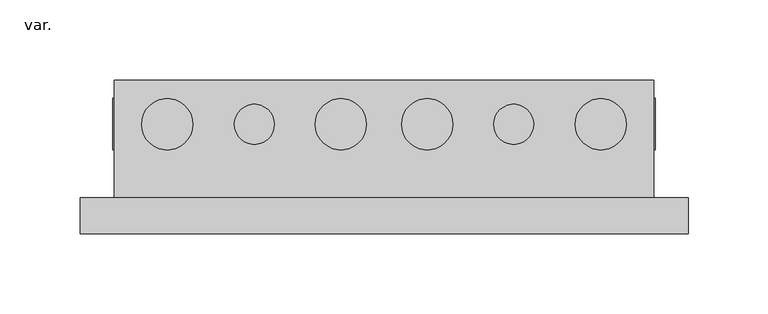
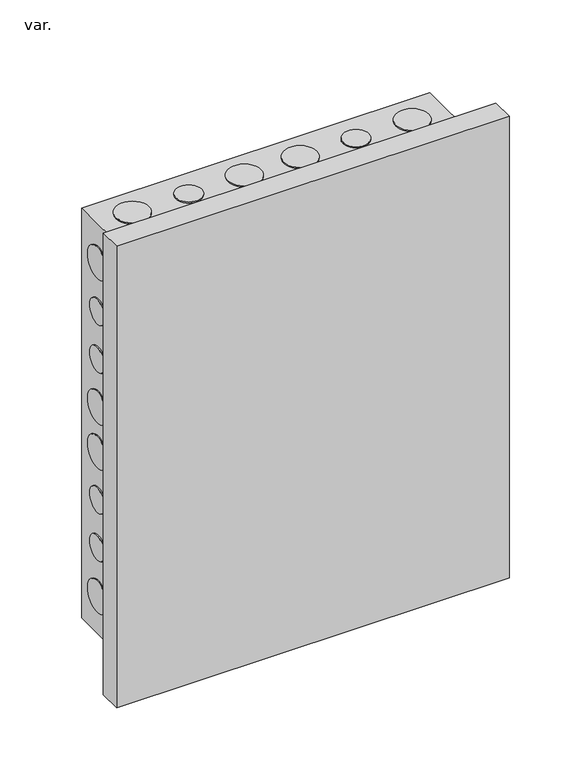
"""IFC4 building model written with IfcOpenShell, lengths in millimetres: pipe fitting geometry, AmancoWavin_ConexõesdoConduite_LinhaEletricaCorrugadoCuadroDistribucao36D : var.."""

from ifc_helpers import new_model, si_unit, point, frame, frame_2d, origin, place, context, project, spatial, polyline, circle_curve, trimmed, segment, composite_curve, outline, extrude, source, transform, mapped, element, save
from ifc_brep_helpers import plane_surface, cylinder_surface, revolved_surface, advanced_brep


def var_01f370bb(model_context):
    return source(origin(), model_context, "Body", "SolidModel", [
        extrude(outline(composite_curve([segment(trimmed(circle_curve(frame_2d((-135.5, 68.3)), 16.0), [point((-151.5, 68.3))], [point((-119.5, 68.3))], False, "CARTESIAN"), True, "CONTINUOUS"), segment(trimmed(circle_curve(frame_2d((-135.5, 68.3)), 16.0), [point((-119.5, 68.3))], [point((-151.5, 68.3))], False, "CARTESIAN"), True, "CONTINUOUS")], self_intersect=False)), frame((0.0, 0.0, -210.5204981), z_axis=(0.0, 0.0, 1.0), x_axis=(1.0, 0.0, 0.0)), (0.0, 0.0, 1.0), 421.5074674),
        extrude(outline(composite_curve([segment(trimmed(circle_curve(frame_2d((-81.0, 68.3)), 12.5), [point((-93.5, 68.3))], [point((-68.5, 68.3))], False, "CARTESIAN"), True, "CONTINUOUS"), segment(trimmed(circle_curve(frame_2d((-81.0, 68.3)), 12.5), [point((-68.5, 68.3))], [point((-93.5, 68.3))], False, "CARTESIAN"), True, "CONTINUOUS")], self_intersect=False)), frame((0.0, 0.0, -210.5204981), z_axis=(0.0, 0.0, 1.0), x_axis=(1.0, 0.0, 0.0)), (0.0, 0.0, 1.0), 421.5074674),
        extrude(outline(composite_curve([segment(trimmed(circle_curve(frame_2d((-27.0, 68.3)), 16.0), [point((-43.0, 68.3))], [point((-11.0, 68.3))], False, "CARTESIAN"), True, "CONTINUOUS"), segment(trimmed(circle_curve(frame_2d((-27.0, 68.3)), 16.0), [point((-11.0, 68.3))], [point((-43.0, 68.3))], False, "CARTESIAN"), True, "CONTINUOUS")], self_intersect=False)), frame((0.0, 0.0, -210.5204981), z_axis=(0.0, 0.0, 1.0), x_axis=(1.0, 0.0, 0.0)), (0.0, 0.0, 1.0), 421.5074674),
        extrude(outline(composite_curve([segment(trimmed(circle_curve(frame_2d((135.5, 68.3)), 16.0), [point((151.5, 68.3))], [point((119.5, 68.3))], False, "CARTESIAN"), True, "CONTINUOUS"), segment(trimmed(circle_curve(frame_2d((135.5, 68.3)), 16.0), [point((119.5, 68.3))], [point((151.5, 68.3))], False, "CARTESIAN"), True, "CONTINUOUS")], self_intersect=False)), frame((0.0, 0.0, -210.5204981), z_axis=(0.0, 0.0, 1.0), x_axis=(1.0, 0.0, 0.0)), (0.0, 0.0, 1.0), 421.5074674),
        extrude(outline(composite_curve([segment(trimmed(circle_curve(frame_2d((81.0, 68.3)), 12.5), [point((93.5, 68.3))], [point((68.5, 68.3))], False, "CARTESIAN"), True, "CONTINUOUS"), segment(trimmed(circle_curve(frame_2d((81.0, 68.3)), 12.5), [point((68.5, 68.3))], [point((93.5, 68.3))], False, "CARTESIAN"), True, "CONTINUOUS")], self_intersect=False)), frame((0.0, 0.0, -210.5204981), z_axis=(0.0, 0.0, 1.0), x_axis=(1.0, 0.0, 0.0)), (0.0, 0.0, 1.0), 421.5074674),
        extrude(outline(composite_curve([segment(trimmed(circle_curve(frame_2d((27.0, 68.3)), 16.0), [point((43.0, 68.3))], [point((11.0, 68.3))], False, "CARTESIAN"), True, "CONTINUOUS"), segment(trimmed(circle_curve(frame_2d((27.0, 68.3)), 16.0), [point((11.0, 68.3))], [point((43.0, 68.3))], False, "CARTESIAN"), True, "CONTINUOUS")], self_intersect=False)), frame((0.0, 0.0, -210.5204981), z_axis=(0.0, 0.0, 1.0), x_axis=(1.0, 0.0, 0.0)), (0.0, 0.0, 1.0), 421.5074674),
        advanced_brep(
        [(190.0, 22.5, 236.5), (190.0, 22.5, -236.5), (-190.0, 22.5, -236.5), (-190.0, 22.5, 236.5), (168.5, 22.5, -210.0), (168.5, 22.5, 210.0), (-168.5, 22.5, 210.0), (-168.5, 22.5, -210.0), (190.0, 0.0, 236.5), (190.0, 0.0, -236.5), (-190.0, 0.0, -236.5), (-190.0, 0.0, 236.5), (168.5, 96.0, 210.0), (168.5, 96.0, -210.0), (-168.5, 96.0, -210.0), (-168.5, 96.0, 210.0), (-132.5, 96.0, 167.5), (-157.5, 96.0, 167.5), (-89.0, 96.0, 185.5), (-121.0, 96.0, 185.5), (132.5, 96.0, 167.5), (157.5, 96.0, 167.5), (89.0, 96.0, 185.5), (121.0, 96.0, 185.5), (-132.5, 96.0, -167.5), (-157.5, 96.0, -167.5), (-89.0, 96.0, -185.5), (-121.0, 96.0, -185.5), (132.5, 96.0, -167.5), (157.5, 96.0, -167.5), (89.0, 96.0, -185.5), (121.0, 96.0, -185.5), (168.5, 52.5, 23.0), (168.5, 84.5, 23.0), (168.5, 56.0, 72.0), (168.5, 81.0, 72.0), (168.5, 52.5, 171.0), (168.5, 84.5, 171.0), (168.5, 56.0, 121.0), (168.5, 81.0, 121.0), (168.5, 52.5, -23.0), (168.5, 84.5, -23.0), (168.5, 56.0, -72.0), (168.5, 81.0, -72.0), (168.5, 52.5, -171.0), (168.5, 84.5, -171.0), (168.5, 56.0, -121.0), (168.5, 81.0, -121.0), (-168.5, 84.5, 23.0), (-168.5, 52.5, 23.0), (-168.5, 81.0, 72.0), (-168.5, 56.0, 72.0), (-168.5, 84.5, 171.0), (-168.5, 52.5, 171.0), (-168.5, 81.0, 121.0), (-168.5, 56.0, 121.0), (-168.5, 84.5, -23.0), (-168.5, 52.5, -23.0), (-168.5, 81.0, -72.0), (-168.5, 56.0, -72.0), (-168.5, 84.5, -171.0), (-168.5, 52.5, -171.0), (-168.5, 81.0, -121.0), (-168.5, 56.0, -121.0), (-157.5, 95.0, 167.5), (-132.5, 95.0, 167.5), (-121.0, 95.0, 185.5), (-89.0, 95.0, 185.5), (157.5, 95.0, 167.5), (132.5, 95.0, 167.5), (121.0, 95.0, 185.5), (89.0, 95.0, 185.5), (-157.5, 95.0, -167.5), (-132.5, 95.0, -167.5), (-121.0, 95.0, -185.5), (-89.0, 95.0, -185.5), (157.5, 95.0, -167.5), (132.5, 95.0, -167.5), (121.0, 95.0, -185.5), (89.0, 95.0, -185.5), (-169.5, 52.5, 23.0), (-169.5, 84.5, 23.0), (-169.5, 56.0, 72.0), (-169.5, 81.0, 72.0), (-169.5, 52.5, 171.0), (-169.5, 84.5, 171.0), (-169.5, 56.0, 121.0), (-169.5, 81.0, 121.0), (-169.5, 52.5, -23.0), (-169.5, 84.5, -23.0), (-169.5, 56.0, -72.0), (-169.5, 81.0, -72.0), (-169.5, 52.5, -171.0), (-169.5, 84.5, -171.0), (-169.5, 56.0, -121.0), (-169.5, 81.0, -121.0), (169.5, 52.5, 23.0), (169.5, 84.5, 23.0), (169.5, 56.0, 72.0), (169.5, 81.0, 72.0), (169.5, 52.5, 171.0), (169.5, 84.5, 171.0), (169.5, 56.0, 121.0), (169.5, 81.0, 121.0), (169.5, 52.5, -23.0), (169.5, 84.5, -23.0), (169.5, 56.0, -72.0), (169.5, 81.0, -72.0), (169.5, 52.5, -171.0), (169.5, 84.5, -171.0), (169.5, 56.0, -121.0), (169.5, 81.0, -121.0)],
        [
            (0, 1),
            (1, 2),
            (2, 3),
            (3, 0),
            (4, 5),
            (5, 6),
            (6, 7),
            (7, 4),
            (0, 8),
            (8, 9),
            (9, 1),
            (9, 10),
            (10, 2),
            (10, 11),
            (11, 3),
            (11, 8),
            (12, 13),
            (13, 14),
            (14, 15),
            (15, 12),
            (16, 17, circle_curve(frame((-145.0, 96.0, 167.5), z_axis=(0.0, -1.0, 0.0), x_axis=(1.0, 0.0, 0.0)), 12.5)),
            (17, 16, circle_curve(frame((-145.0, 96.0, 167.5), z_axis=(0.0, -1.0, 0.0), x_axis=(1.0, 0.0, 0.0)), 12.5)),
            (18, 19, circle_curve(frame((-105.0, 96.0, 185.5), z_axis=(0.0, -1.0, 0.0), x_axis=(1.0, 0.0, 0.0)), 16.0)),
            (19, 18, circle_curve(frame((-105.0, 96.0, 185.5), z_axis=(0.0, -1.0, 0.0), x_axis=(1.0, 0.0, 0.0)), 16.0)),
            (20, 21, circle_curve(frame((145.0, 96.0, 167.5), z_axis=(0.0, -1.0, 0.0), x_axis=(-1.0, 0.0, 0.0)), 12.5)),
            (21, 20, circle_curve(frame((145.0, 96.0, 167.5), z_axis=(0.0, -1.0, 0.0), x_axis=(-1.0, 0.0, 0.0)), 12.5)),
            (22, 23, circle_curve(frame((105.0, 96.0, 185.5), z_axis=(0.0, -1.0, 0.0), x_axis=(-1.0, 0.0, 0.0)), 16.0)),
            (23, 22, circle_curve(frame((105.0, 96.0, 185.5), z_axis=(0.0, -1.0, 0.0), x_axis=(-1.0, 0.0, 0.0)), 16.0)),
            (24, 25, circle_curve(frame((-145.0, 96.0, -167.5), z_axis=(0.0, -1.0, 0.0), x_axis=(1.0, 0.0, 0.0)), 12.5)),
            (25, 24, circle_curve(frame((-145.0, 96.0, -167.5), z_axis=(0.0, -1.0, 0.0), x_axis=(1.0, 0.0, 0.0)), 12.5)),
            (26, 27, circle_curve(frame((-105.0, 96.0, -185.5), z_axis=(0.0, -1.0, 0.0), x_axis=(1.0, 0.0, 0.0)), 16.0)),
            (27, 26, circle_curve(frame((-105.0, 96.0, -185.5), z_axis=(0.0, -1.0, 0.0), x_axis=(1.0, 0.0, 0.0)), 16.0)),
            (28, 29, circle_curve(frame((145.0, 96.0, -167.5), z_axis=(0.0, -1.0, 0.0), x_axis=(-1.0, 0.0, 0.0)), 12.5)),
            (29, 28, circle_curve(frame((145.0, 96.0, -167.5), z_axis=(0.0, -1.0, 0.0), x_axis=(-1.0, 0.0, 0.0)), 12.5)),
            (30, 31, circle_curve(frame((105.0, 96.0, -185.5), z_axis=(0.0, -1.0, 0.0), x_axis=(-1.0, 0.0, 0.0)), 16.0)),
            (31, 30, circle_curve(frame((105.0, 96.0, -185.5), z_axis=(0.0, -1.0, 0.0), x_axis=(-1.0, 0.0, 0.0)), 16.0)),
            (12, 5),
            (4, 13),
            (32, 33, circle_curve(frame((168.5, 68.5, 23.0), z_axis=(-1.0, 0.0, 0.0), x_axis=(0.0, 1.0, 0.0)), 16.0)),
            (33, 32, circle_curve(frame((168.5, 68.5, 23.0), z_axis=(-1.0, 0.0, 0.0), x_axis=(0.0, 1.0, 0.0)), 16.0)),
            (34, 35, circle_curve(frame((168.5, 68.5, 72.0), z_axis=(-1.0, 0.0, 0.0), x_axis=(0.0, 1.0, 0.0)), 12.5)),
            (35, 34, circle_curve(frame((168.5, 68.5, 72.0), z_axis=(-1.0, 0.0, 0.0), x_axis=(0.0, 1.0, 0.0)), 12.5)),
            (36, 37, circle_curve(frame((168.5, 68.5, 171.0), z_axis=(-1.0, 0.0, 0.0), x_axis=(0.0, 1.0, 0.0)), 16.0)),
            (37, 36, circle_curve(frame((168.5, 68.5, 171.0), z_axis=(-1.0, 0.0, 0.0), x_axis=(0.0, 1.0, 0.0)), 16.0)),
            (38, 39, circle_curve(frame((168.5, 68.5, 121.0), z_axis=(-1.0, 0.0, 0.0), x_axis=(0.0, 1.0, 0.0)), 12.5)),
            (39, 38, circle_curve(frame((168.5, 68.5, 121.0), z_axis=(-1.0, 0.0, 0.0), x_axis=(0.0, 1.0, 0.0)), 12.5)),
            (40, 41, circle_curve(frame((168.5, 68.5, -23.0), z_axis=(-1.0, 0.0, 0.0), x_axis=(0.0, 1.0, 0.0)), 16.0)),
            (41, 40, circle_curve(frame((168.5, 68.5, -23.0), z_axis=(-1.0, 0.0, 0.0), x_axis=(0.0, 1.0, 0.0)), 16.0)),
            (42, 43, circle_curve(frame((168.5, 68.5, -72.0), z_axis=(-1.0, 0.0, 0.0), x_axis=(0.0, 1.0, 0.0)), 12.5)),
            (43, 42, circle_curve(frame((168.5, 68.5, -72.0), z_axis=(-1.0, 0.0, 0.0), x_axis=(0.0, 1.0, 0.0)), 12.5)),
            (44, 45, circle_curve(frame((168.5, 68.5, -171.0), z_axis=(-1.0, 0.0, 0.0), x_axis=(0.0, 1.0, 0.0)), 16.0)),
            (45, 44, circle_curve(frame((168.5, 68.5, -171.0), z_axis=(-1.0, 0.0, 0.0), x_axis=(0.0, 1.0, 0.0)), 16.0)),
            (46, 47, circle_curve(frame((168.5, 68.5, -121.0), z_axis=(-1.0, 0.0, 0.0), x_axis=(0.0, 1.0, 0.0)), 12.5)),
            (47, 46, circle_curve(frame((168.5, 68.5, -121.0), z_axis=(-1.0, 0.0, 0.0), x_axis=(0.0, 1.0, 0.0)), 12.5)),
            (7, 14),
            (6, 15),
            (48, 49, circle_curve(frame((-168.5, 68.5, 23.0), z_axis=(1.0, 0.0, 0.0), x_axis=(0.0, 1.0, 0.0)), 16.0)),
            (49, 48, circle_curve(frame((-168.5, 68.5, 23.0), z_axis=(1.0, 0.0, 0.0), x_axis=(0.0, 1.0, 0.0)), 16.0)),
            (50, 51, circle_curve(frame((-168.5, 68.5, 72.0), z_axis=(1.0, 0.0, 0.0), x_axis=(0.0, 1.0, 0.0)), 12.5)),
            (51, 50, circle_curve(frame((-168.5, 68.5, 72.0), z_axis=(1.0, 0.0, 0.0), x_axis=(0.0, 1.0, 0.0)), 12.5)),
            (52, 53, circle_curve(frame((-168.5, 68.5, 171.0), z_axis=(1.0, 0.0, 0.0), x_axis=(0.0, 1.0, 0.0)), 16.0)),
            (53, 52, circle_curve(frame((-168.5, 68.5, 171.0), z_axis=(1.0, 0.0, 0.0), x_axis=(0.0, 1.0, 0.0)), 16.0)),
            (54, 55, circle_curve(frame((-168.5, 68.5, 121.0), z_axis=(1.0, 0.0, 0.0), x_axis=(0.0, 1.0, 0.0)), 12.5)),
            (55, 54, circle_curve(frame((-168.5, 68.5, 121.0), z_axis=(1.0, 0.0, 0.0), x_axis=(0.0, 1.0, 0.0)), 12.5)),
            (56, 57, circle_curve(frame((-168.5, 68.5, -23.0), z_axis=(1.0, 0.0, 0.0), x_axis=(0.0, 1.0, 0.0)), 16.0)),
            (57, 56, circle_curve(frame((-168.5, 68.5, -23.0), z_axis=(1.0, 0.0, 0.0), x_axis=(0.0, 1.0, 0.0)), 16.0)),
            (58, 59, circle_curve(frame((-168.5, 68.5, -72.0), z_axis=(1.0, 0.0, 0.0), x_axis=(0.0, 1.0, 0.0)), 12.5)),
            (59, 58, circle_curve(frame((-168.5, 68.5, -72.0), z_axis=(1.0, 0.0, 0.0), x_axis=(0.0, 1.0, 0.0)), 12.5)),
            (60, 61, circle_curve(frame((-168.5, 68.5, -171.0), z_axis=(1.0, 0.0, 0.0), x_axis=(0.0, 1.0, 0.0)), 16.0)),
            (61, 60, circle_curve(frame((-168.5, 68.5, -171.0), z_axis=(1.0, 0.0, 0.0), x_axis=(0.0, 1.0, 0.0)), 16.0)),
            (62, 63, circle_curve(frame((-168.5, 68.5, -121.0), z_axis=(1.0, 0.0, 0.0), x_axis=(0.0, 1.0, 0.0)), 12.5)),
            (63, 62, circle_curve(frame((-168.5, 68.5, -121.0), z_axis=(1.0, 0.0, 0.0), x_axis=(0.0, 1.0, 0.0)), 12.5)),
            (64, 65, circle_curve(frame((-145.0, 95.0, 167.5), z_axis=(0.0, 1.0, 0.0), x_axis=(1.0, 0.0, 0.0)), 12.5)),
            (65, 64, circle_curve(frame((-145.0, 95.0, 167.5), z_axis=(0.0, 1.0, 0.0), x_axis=(1.0, 0.0, 0.0)), 12.5)),
            (66, 67, circle_curve(frame((-105.0, 95.0, 185.5), z_axis=(0.0, 1.0, 0.0), x_axis=(1.0, 0.0, 0.0)), 16.0)),
            (67, 66, circle_curve(frame((-105.0, 95.0, 185.5), z_axis=(0.0, 1.0, 0.0), x_axis=(1.0, 0.0, 0.0)), 16.0)),
            (68, 69, circle_curve(frame((145.0, 95.0, 167.5), z_axis=(0.0, 1.0, 0.0), x_axis=(-1.0, 0.0, 0.0)), 12.5)),
            (69, 68, circle_curve(frame((145.0, 95.0, 167.5), z_axis=(0.0, 1.0, 0.0), x_axis=(-1.0, 0.0, 0.0)), 12.5)),
            (70, 71, circle_curve(frame((105.0, 95.0, 185.5), z_axis=(0.0, 1.0, 0.0), x_axis=(-1.0, 0.0, 0.0)), 16.0)),
            (71, 70, circle_curve(frame((105.0, 95.0, 185.5), z_axis=(0.0, 1.0, 0.0), x_axis=(-1.0, 0.0, 0.0)), 16.0)),
            (72, 73, circle_curve(frame((-145.0, 95.0, -167.5), z_axis=(0.0, 1.0, 0.0), x_axis=(1.0, 0.0, 0.0)), 12.5)),
            (73, 72, circle_curve(frame((-145.0, 95.0, -167.5), z_axis=(0.0, 1.0, 0.0), x_axis=(1.0, 0.0, 0.0)), 12.5)),
            (74, 75, circle_curve(frame((-105.0, 95.0, -185.5), z_axis=(0.0, 1.0, 0.0), x_axis=(1.0, 0.0, 0.0)), 16.0)),
            (75, 74, circle_curve(frame((-105.0, 95.0, -185.5), z_axis=(0.0, 1.0, 0.0), x_axis=(1.0, 0.0, 0.0)), 16.0)),
            (76, 77, circle_curve(frame((145.0, 95.0, -167.5), z_axis=(0.0, 1.0, 0.0), x_axis=(-1.0, 0.0, 0.0)), 12.5)),
            (77, 76, circle_curve(frame((145.0, 95.0, -167.5), z_axis=(0.0, 1.0, 0.0), x_axis=(-1.0, 0.0, 0.0)), 12.5)),
            (78, 79, circle_curve(frame((105.0, 95.0, -185.5), z_axis=(0.0, 1.0, 0.0), x_axis=(-1.0, 0.0, 0.0)), 16.0)),
            (79, 78, circle_curve(frame((105.0, 95.0, -185.5), z_axis=(0.0, 1.0, 0.0), x_axis=(-1.0, 0.0, 0.0)), 16.0)),
            (64, 17),
            (16, 65),
            (66, 19),
            (18, 67),
            (80, 81, circle_curve(frame((-169.5, 68.5, 23.0), z_axis=(-1.0, 0.0, 0.0), x_axis=(0.0, 1.0, 0.0)), 16.0)),
            (81, 80, circle_curve(frame((-169.5, 68.5, 23.0), z_axis=(-1.0, 0.0, 0.0), x_axis=(0.0, 1.0, 0.0)), 16.0)),
            (82, 83, circle_curve(frame((-169.5, 68.5, 72.0), z_axis=(-1.0, 0.0, 0.0), x_axis=(0.0, 1.0, 0.0)), 12.5)),
            (83, 82, circle_curve(frame((-169.5, 68.5, 72.0), z_axis=(-1.0, 0.0, 0.0), x_axis=(0.0, 1.0, 0.0)), 12.5)),
            (84, 85, circle_curve(frame((-169.5, 68.5, 171.0), z_axis=(-1.0, 0.0, 0.0), x_axis=(0.0, 1.0, 0.0)), 16.0)),
            (85, 84, circle_curve(frame((-169.5, 68.5, 171.0), z_axis=(-1.0, 0.0, 0.0), x_axis=(0.0, 1.0, 0.0)), 16.0)),
            (86, 87, circle_curve(frame((-169.5, 68.5, 121.0), z_axis=(-1.0, 0.0, 0.0), x_axis=(0.0, 1.0, 0.0)), 12.5)),
            (87, 86, circle_curve(frame((-169.5, 68.5, 121.0), z_axis=(-1.0, 0.0, 0.0), x_axis=(0.0, 1.0, 0.0)), 12.5)),
            (88, 89, circle_curve(frame((-169.5, 68.5, -23.0), z_axis=(-1.0, 0.0, 0.0), x_axis=(0.0, 1.0, 0.0)), 16.0)),
            (89, 88, circle_curve(frame((-169.5, 68.5, -23.0), z_axis=(-1.0, 0.0, 0.0), x_axis=(0.0, 1.0, 0.0)), 16.0)),
            (90, 91, circle_curve(frame((-169.5, 68.5, -72.0), z_axis=(-1.0, 0.0, 0.0), x_axis=(0.0, 1.0, 0.0)), 12.5)),
            (91, 90, circle_curve(frame((-169.5, 68.5, -72.0), z_axis=(-1.0, 0.0, 0.0), x_axis=(0.0, 1.0, 0.0)), 12.5)),
            (92, 93, circle_curve(frame((-169.5, 68.5, -171.0), z_axis=(-1.0, 0.0, 0.0), x_axis=(0.0, 1.0, 0.0)), 16.0)),
            (93, 92, circle_curve(frame((-169.5, 68.5, -171.0), z_axis=(-1.0, 0.0, 0.0), x_axis=(0.0, 1.0, 0.0)), 16.0)),
            (94, 95, circle_curve(frame((-169.5, 68.5, -121.0), z_axis=(-1.0, 0.0, 0.0), x_axis=(0.0, 1.0, 0.0)), 12.5)),
            (95, 94, circle_curve(frame((-169.5, 68.5, -121.0), z_axis=(-1.0, 0.0, 0.0), x_axis=(0.0, 1.0, 0.0)), 12.5)),
            (96, 97, circle_curve(frame((169.5, 68.5, 23.0), z_axis=(1.0, 0.0, 0.0), x_axis=(0.0, 1.0, 0.0)), 16.0)),
            (97, 96, circle_curve(frame((169.5, 68.5, 23.0), z_axis=(1.0, 0.0, 0.0), x_axis=(0.0, 1.0, 0.0)), 16.0)),
            (98, 99, circle_curve(frame((169.5, 68.5, 72.0), z_axis=(1.0, 0.0, 0.0), x_axis=(0.0, 1.0, 0.0)), 12.5)),
            (99, 98, circle_curve(frame((169.5, 68.5, 72.0), z_axis=(1.0, 0.0, 0.0), x_axis=(0.0, 1.0, 0.0)), 12.5)),
            (100, 101, circle_curve(frame((169.5, 68.5, 171.0), z_axis=(1.0, 0.0, 0.0), x_axis=(0.0, 1.0, 0.0)), 16.0)),
            (101, 100, circle_curve(frame((169.5, 68.5, 171.0), z_axis=(1.0, 0.0, 0.0), x_axis=(0.0, 1.0, 0.0)), 16.0)),
            (102, 103, circle_curve(frame((169.5, 68.5, 121.0), z_axis=(1.0, 0.0, 0.0), x_axis=(0.0, 1.0, 0.0)), 12.5)),
            (103, 102, circle_curve(frame((169.5, 68.5, 121.0), z_axis=(1.0, 0.0, 0.0), x_axis=(0.0, 1.0, 0.0)), 12.5)),
            (104, 105, circle_curve(frame((169.5, 68.5, -23.0), z_axis=(1.0, 0.0, 0.0), x_axis=(0.0, 1.0, 0.0)), 16.0)),
            (105, 104, circle_curve(frame((169.5, 68.5, -23.0), z_axis=(1.0, 0.0, 0.0), x_axis=(0.0, 1.0, 0.0)), 16.0)),
            (106, 107, circle_curve(frame((169.5, 68.5, -72.0), z_axis=(1.0, 0.0, 0.0), x_axis=(0.0, 1.0, 0.0)), 12.5)),
            (107, 106, circle_curve(frame((169.5, 68.5, -72.0), z_axis=(1.0, 0.0, 0.0), x_axis=(0.0, 1.0, 0.0)), 12.5)),
            (108, 109, circle_curve(frame((169.5, 68.5, -171.0), z_axis=(1.0, 0.0, 0.0), x_axis=(0.0, 1.0, 0.0)), 16.0)),
            (109, 108, circle_curve(frame((169.5, 68.5, -171.0), z_axis=(1.0, 0.0, 0.0), x_axis=(0.0, 1.0, 0.0)), 16.0)),
            (110, 111, circle_curve(frame((169.5, 68.5, -121.0), z_axis=(1.0, 0.0, 0.0), x_axis=(0.0, 1.0, 0.0)), 12.5)),
            (111, 110, circle_curve(frame((169.5, 68.5, -121.0), z_axis=(1.0, 0.0, 0.0), x_axis=(0.0, 1.0, 0.0)), 12.5)),
            (80, 49),
            (48, 81),
            (97, 33),
            (32, 96),
            (82, 51),
            (50, 83),
            (99, 35),
            (34, 98),
            (84, 53),
            (52, 85),
            (101, 37),
            (36, 100),
            (68, 21),
            (20, 69),
            (70, 23),
            (22, 71),
            (72, 25),
            (24, 73),
            (74, 27),
            (26, 75),
            (76, 29),
            (28, 77),
            (78, 31),
            (30, 79),
            (86, 55),
            (54, 87),
            (103, 39),
            (38, 102),
            (88, 57),
            (56, 89),
            (105, 41),
            (40, 104),
            (90, 59),
            (58, 91),
            (107, 43),
            (42, 106),
            (92, 61),
            (60, 93),
            (109, 45),
            (44, 108),
            (94, 63),
            (62, 95),
            (111, 47),
            (46, 110),
        ],
        [
            plane_surface(frame((190.0, 22.5, 200.5423623), z_axis=(0.0, 1.0, 0.0), x_axis=(0.0, 0.0, -1.0))),
            plane_surface(frame((190.0, 22.5, 236.5), z_axis=(1.0, 0.0, 0.0), x_axis=(0.0, -1.0, 0.0))),
            plane_surface(frame((190.0, 22.5, -236.5), z_axis=(0.0, 0.0, -1.0), x_axis=(0.0, -1.0, 0.0))),
            plane_surface(frame((-190.0, 22.5, -236.5), z_axis=(-1.0, 0.0, 0.0), x_axis=(0.0, -1.0, 0.0))),
            plane_surface(frame((-190.0, 22.5, 236.5), z_axis=(0.0, 0.0, 1.0), x_axis=(0.0, -1.0, 0.0))),
            plane_surface(frame((168.5, 96.0, 132.4195146), z_axis=(0.0, 1.0, 0.0), x_axis=(0.0, 0.0, -1.0))),
            plane_surface(frame((168.5, 0.0, 132.4195146), z_axis=(0.0, -1.0, 0.0), x_axis=(0.0, 0.0, 1.0))),
            plane_surface(frame((168.5, 96.0, 210.0), z_axis=(1.0, 0.0, 0.0), x_axis=(0.0, -1.0, 0.0))),
            plane_surface(frame((168.5, 96.0, -210.0), z_axis=(0.0, 0.0, -1.0), x_axis=(0.0, -1.0, 0.0))),
            plane_surface(frame((-168.5, 96.0, -210.0), z_axis=(-1.0, 0.0, 0.0), x_axis=(0.0, -1.0, 0.0))),
            plane_surface(frame((-168.5, 96.0, 210.0), z_axis=(0.0, 0.0, 1.0), x_axis=(0.0, -1.0, 0.0))),
            plane_surface(frame((-132.5, 95.0, 167.5), z_axis=(0.0, 1.0, 0.0), x_axis=(0.0, 0.0, 1.0))),
            revolved_surface(polyline([(-132.5, 96.0, 167.5), (-132.5, 95.0, 167.5)]), (-145.0, 95.0, 167.5), (0.0, 1.0, 0.0)),
            revolved_surface(polyline([(-89.0, 96.0, 185.5), (-89.0, 95.0, 185.5)]), (-105.0, 0.0, 185.5), (0.0, 1.0, 0.0)),
            plane_surface(frame((-169.5, 84.5, 23.0), z_axis=(-1.0, 0.0, 0.0), x_axis=(0.0, 0.0, -1.0))),
            plane_surface(frame((169.5, 84.5, 23.0), z_axis=(1.0, 0.0, 0.0), x_axis=(0.0, 0.0, 1.0))),
            cylinder_surface(frame((169.5, 68.5, 23.0), z_axis=(-1.0, 0.0, 0.0), x_axis=(0.0, 1.0, 0.0)), 16.0),
            cylinder_surface(frame((0.0, 68.5, 72.0), z_axis=(-1.0, 0.0, 0.0), x_axis=(0.0, 1.0, 0.0)), 12.5),
            cylinder_surface(frame((0.0, 68.5, 171.0), z_axis=(-1.0, 0.0, 0.0), x_axis=(0.0, 1.0, 0.0)), 16.0),
            revolved_surface(polyline([(132.5, 96.0, 167.5), (132.5, 95.0, 167.5)]), (145.0, 0.0, 167.5), (0.0, 1.0, 0.0)),
            revolved_surface(polyline([(89.0, 96.0, 185.5), (89.0, 95.0, 185.5)]), (105.0, 0.0, 185.5), (0.0, 1.0, 0.0)),
            revolved_surface(polyline([(-132.5, 96.0, -167.5), (-132.5, 95.0, -167.5)]), (-145.0, 0.0, -167.5), (0.0, 1.0, 0.0)),
            revolved_surface(polyline([(-89.0, 96.0, -185.5), (-89.0, 95.0, -185.5)]), (-105.0, 0.0, -185.5), (0.0, 1.0, 0.0)),
            revolved_surface(polyline([(132.5, 96.0, -167.5), (132.5, 95.0, -167.5)]), (145.0, 0.0, -167.5), (0.0, 1.0, 0.0)),
            revolved_surface(polyline([(89.0, 96.0, -185.5), (89.0, 95.0, -185.5)]), (105.0, 0.0, -185.5), (0.0, 1.0, 0.0)),
            cylinder_surface(frame((0.0, 68.5, 121.0), z_axis=(-1.0, 0.0, 0.0), x_axis=(0.0, 1.0, 0.0)), 12.5),
            cylinder_surface(frame((0.0, 68.5, -23.0), z_axis=(-1.0, 0.0, 0.0), x_axis=(0.0, 1.0, 0.0)), 16.0),
            cylinder_surface(frame((0.0, 68.5, -72.0), z_axis=(-1.0, 0.0, 0.0), x_axis=(0.0, 1.0, 0.0)), 12.5),
            cylinder_surface(frame((0.0, 68.5, -171.0), z_axis=(-1.0, 0.0, 0.0), x_axis=(0.0, 1.0, 0.0)), 16.0),
            cylinder_surface(frame((0.0, 68.5, -121.0), z_axis=(-1.0, 0.0, 0.0), x_axis=(0.0, 1.0, 0.0)), 12.5),
        ],
        [
            (0, [[1, 2, 3, 4], [5, 6, 7, 8]]),
            (1, [[-1, 9, 10, 11]]),
            (2, [[-2, -11, 12, 13]]),
            (3, [[-3, -13, 14, 15]]),
            (4, [[-4, -15, 16, -9]]),
            (5, [[17, 18, 19, 20], [21, 22], [23, 24], [25, 26], [27, 28], [29, 30], [31, 32], [33, 34], [35, 36]]),
            (6, [[-16, -14, -12, -10]]),
            (7, [[-17, 37, -5, 38], [39, 40], [41, 42], [43, 44], [45, 46], [47, 48], [49, 50], [51, 52], [53, 54]]),
            (8, [[-18, -38, -8, 55]]),
            (9, [[-19, -55, -7, 56], [57, 58], [59, 60], [61, 62], [63, 64], [65, 66], [67, 68], [69, 70], [71, 72]]),
            (10, [[-20, -56, -6, -37]]),
            (11, [[73, 74]]),
            (11, [[75, 76]]),
            (11, [[77, 78]]),
            (11, [[79, 80]]),
            (11, [[81, 82]]),
            (11, [[83, 84]]),
            (11, [[85, 86]]),
            (11, [[87, 88]]),
            (12, [[-73, 89, -21, 90]]),
            (12, [[-74, -90, -22, -89]]),
            (13, [[-75, 91, -23, 92]]),
            (13, [[-76, -92, -24, -91]]),
            (14, [[93, 94]]),
            (14, [[95, 96]]),
            (14, [[97, 98]]),
            (14, [[99, 100]]),
            (14, [[101, 102]]),
            (14, [[103, 104]]),
            (14, [[105, 106]]),
            (14, [[107, 108]]),
            (15, [[109, 110]]),
            (15, [[111, 112]]),
            (15, [[113, 114]]),
            (15, [[115, 116]]),
            (15, [[117, 118]]),
            (15, [[119, 120]]),
            (15, [[121, 122]]),
            (15, [[123, 124]]),
            (16, [[-93, 125, -57, 126]]),
            (16, [[-110, 127, -39, 128]]),
            (16, [[-94, -126, -58, -125]]),
            (16, [[-109, -128, -40, -127]]),
            (17, [[-95, 129, -59, 130]]),
            (17, [[-112, 131, -41, 132]]),
            (17, [[-96, -130, -60, -129]]),
            (17, [[-111, -132, -42, -131]]),
            (18, [[-97, 133, -61, 134]]),
            (18, [[-114, 135, -43, 136]]),
            (18, [[-98, -134, -62, -133]]),
            (18, [[-113, -136, -44, -135]]),
            (19, [[-77, 137, -25, 138]]),
            (19, [[-78, -138, -26, -137]]),
            (20, [[-79, 139, -27, 140]]),
            (20, [[-80, -140, -28, -139]]),
            (21, [[-81, 141, -29, 142]]),
            (21, [[-82, -142, -30, -141]]),
            (22, [[-83, 143, -31, 144]]),
            (22, [[-84, -144, -32, -143]]),
            (23, [[-85, 145, -33, 146]]),
            (23, [[-86, -146, -34, -145]]),
            (24, [[-87, 147, -35, 148]]),
            (24, [[-88, -148, -36, -147]]),
            (25, [[-99, 149, -63, 150]]),
            (25, [[-116, 151, -45, 152]]),
            (25, [[-100, -150, -64, -149]]),
            (25, [[-115, -152, -46, -151]]),
            (26, [[-101, 153, -65, 154]]),
            (26, [[-118, 155, -47, 156]]),
            (26, [[-102, -154, -66, -153]]),
            (26, [[-117, -156, -48, -155]]),
            (27, [[-103, 157, -67, 158]]),
            (27, [[-120, 159, -49, 160]]),
            (27, [[-104, -158, -68, -157]]),
            (27, [[-119, -160, -50, -159]]),
            (28, [[-105, 161, -69, 162]]),
            (28, [[-122, 163, -51, 164]]),
            (28, [[-106, -162, -70, -161]]),
            (28, [[-121, -164, -52, -163]]),
            (29, [[-107, 165, -71, 166]]),
            (29, [[-124, 167, -53, 168]]),
            (29, [[-108, -166, -72, -165]]),
            (29, [[-123, -168, -54, -167]]),
        ],
    ),
    ])


if __name__ == "__main__":
    model = new_model("IFC4")
    model_context = context("Model", 3, world=origin())
    ifc_project = project(units=[si_unit("LENGTHUNIT", "METRE", prefix="MILLI")], contexts=[model_context])
    site = spatial("IfcSite", under=ifc_project)
    building = spatial("IfcBuilding", under=site)
    placement = place(None, origin())
    var_shape = var_01f370bb(model_context)
    element("IfcPipeFitting", 1, ObjectType="AmancoWavin_ConexõesdoConduite_LinhaEletricaCorrugadoCuadroDistribucao36D : var.", at=placement, inside=building, context=model_context, shape_type="MappedRepresentation", body=[
        mapped(var_shape, transform((0.0, 0.0, 0.0), x_axis=(1.0, 0.0, 0.0), y_axis=(0.0, 1.0, 0.0), z_axis=(0.0, 0.0, 1.0))),
    ])
    save(model, "model.ifc")
